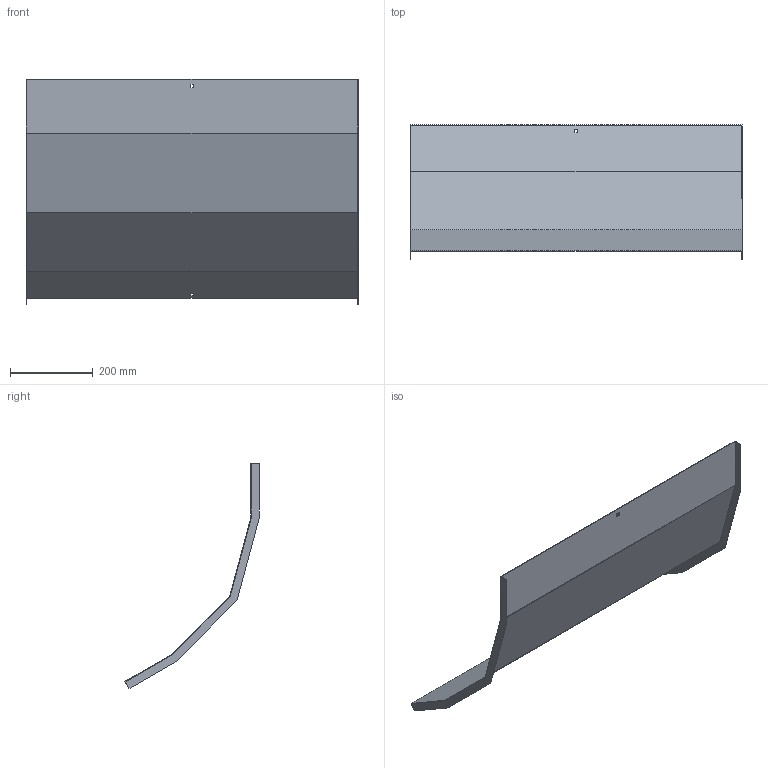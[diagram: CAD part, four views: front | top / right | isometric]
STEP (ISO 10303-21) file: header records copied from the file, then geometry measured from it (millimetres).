
FILE_DESCRIPTION (( 'STEP AP214' ), '1' );
FILE_NAME ('40N5R800_H150.step', '2025-02-21T14:29:23', ( '' ), ( '' ), 'SwSTEP 2.0', 'SolidWorks 2023', '' );
FILE_SCHEMA (( 'AUTOMOTIVE_DESIGN' ));
Length unit declared in the file: millimetre
Products named in the file (1): 40N5R800_H150
Bounding box: 803 x 324.8 x 545.25 mm (x, y, z)
Volume: 830498.3 mm3; surface area: 1111979.4 mm2
Topology: 1 solids, 1 shells, 30 faces, 84 edges, 56 vertices
Faces by surface type: plane 30
Entity records: 979 total; most frequent: CARTESIAN_POINT 171, ORIENTED_EDGE 168, DIRECTION 146, VECTOR 84, EDGE_CURVE 84, LINE 84, VERTEX_POINT 56, EDGE_LOOP 34
